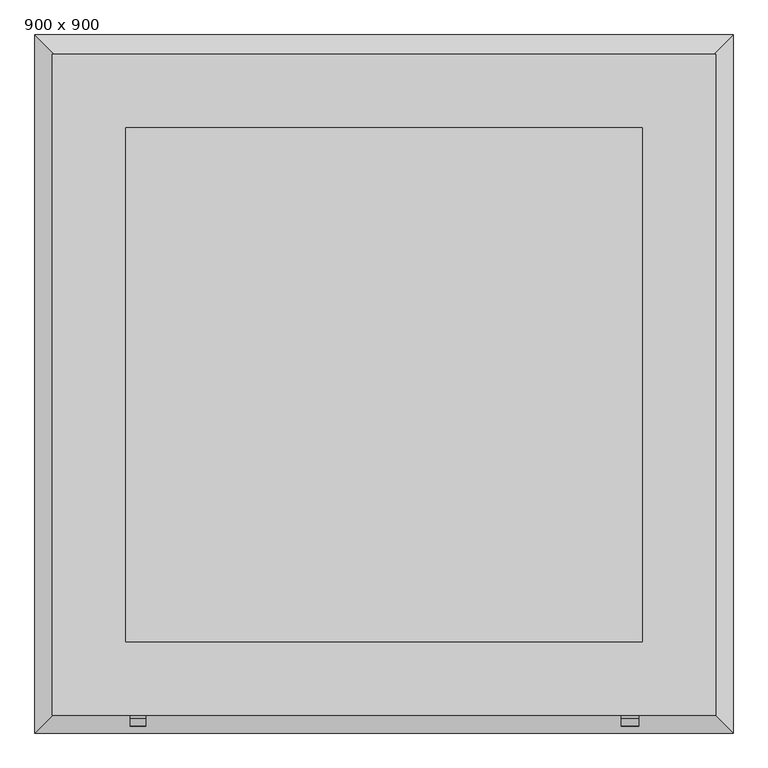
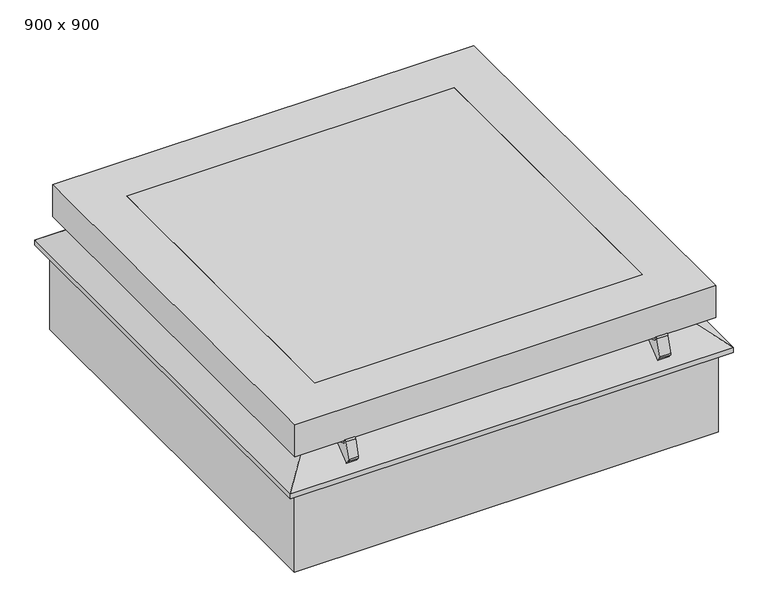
"""IFC4 building model written with IfcOpenShell, lengths in millimetres: proxy geometry, 2_Topaccess_dakluik_900x900_Staka : 900 x 900."""

from ifc_helpers import new_model, si_unit, point, frame, frame_2d, origin, place, context, project, spatial, polyline, circle_curve, trimmed, segment, composite_curve, outline, extrude, faceted_brep, source, transform, mapped, element, save


def proxy_900_x_900_452053f7(model_context):
    return source(origin(), model_context, "Body", "SolidModel", [
        extrude(outline(composite_curve([segment(trimmed(circle_curve(frame_2d((-359.3648131, 286.8367213)), 7.5311041), [point((-365.2456174, 282.1320778))], [point((-366.7901944, 288.0941957))], False, "CARTESIAN"), True, "CONTINUOUS"), segment(polyline([(-366.7901944, 288.0941957), (-353.3118588, 332.1798449)]), True, "CONTINUOUS"), segment(trimmed(circle_curve(frame_2d((-349.4849442, 331.0098397)), 4.0017731), [point((-353.3118588, 332.1798449))], [point((-347.076617, 327.8138816))], False, "CARTESIAN"), True, "CONTINUOUS"), segment(trimmed(circle_curve(frame_2d((-344.5716793, 325.8942569)), 3.1558949), [point((-347.076617, 327.8138816))], [point((-344.7636324, 322.7442051))], True, "CARTESIAN"), True, "CONTINUOUS"), segment(polyline([(-344.7636324, 322.7442051), (-309.4270274, 309.7007017), (-356.9108622, 271.7136338), (-365.2456174, 282.1320778)]), True, "CONTINUOUS")], self_intersect=False)), frame((-1025.8118006, 0.0, 0.0), z_axis=(1.0, 0.0, 0.0), x_axis=(0.0, 1.0, 0.0)), (0.0, 0.0, 1.0), 26.9967765),
        extrude(outline(composite_curve([segment(trimmed(circle_curve(frame_2d((-359.3648131, 286.8367213)), 7.5311041), [point((-365.2456174, 282.1320778))], [point((-366.7901944, 288.0941957))], False, "CARTESIAN"), True, "CONTINUOUS"), segment(polyline([(-366.7901944, 288.0941957), (-353.3118588, 332.1798449)]), True, "CONTINUOUS"), segment(trimmed(circle_curve(frame_2d((-349.4849442, 331.0098397)), 4.0017731), [point((-353.3118588, 332.1798449))], [point((-347.076617, 327.8138816))], False, "CARTESIAN"), True, "CONTINUOUS"), segment(trimmed(circle_curve(frame_2d((-344.5716793, 325.8942569)), 3.1558949), [point((-347.076617, 327.8138816))], [point((-344.7636324, 322.7442051))], True, "CARTESIAN"), True, "CONTINUOUS"), segment(polyline([(-344.7636324, 322.7442051), (-309.4270274, 309.7007017), (-356.9108622, 271.7136338), (-365.2456174, 282.1320778)]), True, "CONTINUOUS")], self_intersect=False)), frame((-165.3386759, 0.0, 0.0), z_axis=(1.0, 0.0, 0.0), x_axis=(0.0, 1.0, 0.0)), (0.0, 0.0, 1.0), 30.3797811),
        faceted_brep([(-61.2697623, 753.4470955, 328.0), (30.7302377, 845.4470955, 254.4), (-1193.2697623, 845.4470955, 254.4), (-1101.2697623, 753.4470955, 328.0), (-105.2697623, 709.4470955, 282.0), (-85.7439208, 728.9729371, 328.0), (-1076.7956039, 728.9729371, 328.0), (-1057.2697623, 709.4470955, 282.0), (-131.2697623, 683.4470955, 0.0), (-131.2697623, 683.4470955, 282.0), (-1031.2697623, 683.4470955, 282.0), (-1031.2697623, 683.4470955, 0.0), (4.7302377, 819.4470955, 240.0), (4.7302377, 819.4470955, 0.0), (-1167.2697623, 819.4470955, 0.0), (-1167.2697623, 819.4470955, 240.0), (30.7302377, 845.4470955, 240.0), (-1193.2697623, 845.4470955, 240.0), (-1193.2697623, -378.5529045, 254.4), (-1101.2697623, -286.5529045, 328.0), (-1076.7956039, -262.078746, 328.0), (-1057.2697623, -242.5529045, 282.0), (-1031.2697623, -216.5529045, 282.0), (-1031.2697623, -216.5529045, 0.0), (-1167.2697623, -352.5529045, 0.0), (-1167.2697623, -352.5529045, 240.0), (-1193.2697623, -378.5529045, 240.0), (30.7302377, -378.5529045, 254.4), (-61.2697623, -286.5529045, 328.0), (-85.7439208, -262.078746, 328.0), (-105.2697623, -242.5529045, 282.0), (-131.2697623, -216.5529045, 282.0), (-131.2697623, -216.5529045, 0.0), (4.7302377, -352.5529045, 0.0), (4.7302377, -352.5529045, 240.0), (30.7302377, -378.5529045, 240.0)], [[[0, 1, 2, 3]], [[4, 5, 6, 7]], [[8, 9, 10, 11]], [[12, 13, 14, 15]], [[1, 16, 17, 2]], [[3, 2, 18, 19]], [[7, 6, 20, 21]], [[11, 10, 22, 23]], [[15, 14, 24, 25]], [[2, 17, 26, 18]], [[19, 18, 27, 28]], [[21, 20, 29, 30]], [[23, 22, 31, 32]], [[25, 24, 33, 34]], [[18, 26, 35, 27]], [[28, 27, 1, 0]], [[3, 19, 28, 0], [5, 29, 20, 6]], [[30, 29, 5, 4]], [[7, 21, 30, 4], [9, 31, 22, 10]], [[32, 31, 9, 8]], [[13, 33, 24, 14], [11, 23, 32, 8]], [[34, 33, 13, 12]], [[16, 35, 26, 17], [15, 25, 34, 12]], [[27, 35, 16, 1]]]),
        extrude(outline(polyline([(-1033.9725908, 682.5846734), (-128.2725908, 682.5846734), (-128.2725908, -218.4153266), (-1033.9725908, -218.4153266), (-1033.9725908, 682.5846734)])), frame((0.0, 0.0, 287.0), z_axis=(0.0, 0.0, 1.0), x_axis=(1.0, 0.0, 0.0)), (0.0, 0.0, 1.0), 139.4),
        faceted_brep([(-128.2725908, 682.5846734, 287.0), (-128.2725908, 682.5846734, 426.4), (-1033.9725908, 682.5846734, 426.4), (-1033.9725908, 682.5846734, 287.0), (-85.2725908, 725.5846734, 333.4), (-102.8725908, 707.9846734, 287.0), (-1059.3725908, 707.9846734, 287.0), (-1076.9725908, 725.5846734, 333.4), (0.7274092, 811.5846734, 426.4), (0.7274092, 811.5846734, 333.4), (-1162.9725908, 811.5846734, 333.4), (-1162.9725908, 811.5846734, 426.4), (-1033.9725908, -218.4153266, 426.4), (-1033.9725908, -218.4153266, 287.0), (-1059.3725908, -243.8153266, 287.0), (-1076.9725908, -261.4153266, 333.4), (-1162.9725908, -347.4153266, 333.4), (-1162.9725908, -347.4153266, 426.4), (-128.2725908, -218.4153266, 426.4), (-128.2725908, -218.4153266, 287.0), (-102.8725908, -243.8153266, 287.0), (-85.2725908, -261.4153266, 333.4), (0.7274092, -347.4153266, 333.4), (0.7274092, -347.4153266, 426.4)], [[[0, 1, 2, 3]], [[4, 5, 6, 7]], [[8, 9, 10, 11]], [[3, 2, 12, 13]], [[7, 6, 14, 15]], [[11, 10, 16, 17]], [[13, 12, 18, 19]], [[15, 14, 20, 21]], [[17, 16, 22, 23]], [[19, 18, 1, 0]], [[5, 20, 14, 6], [3, 13, 19, 0]], [[21, 20, 5, 4]], [[9, 22, 16, 10], [7, 15, 21, 4]], [[23, 22, 9, 8]], [[11, 17, 23, 8], [1, 18, 12, 2]]]),
    ])


if __name__ == "__main__":
    model = new_model("IFC4")
    model_context = context("Model", 3, world=origin())
    ifc_project = project(units=[si_unit("LENGTHUNIT", "METRE", prefix="MILLI")], contexts=[model_context])
    site = spatial("IfcSite", under=ifc_project)
    building = spatial("IfcBuilding", under=site)
    placement = place(None, origin())
    proxy_900_x_900_shape = proxy_900_x_900_452053f7(model_context)
    element("IfcBuildingElementProxy", 1, Name="2_Topaccess_dakluik_900x900_Staka : 900 x 900", ObjectType="2_Topaccess_dakluik_900x900_Staka : 900 x 900", at=placement, inside=building, context=model_context, shape_type="MappedRepresentation", body=[
        mapped(proxy_900_x_900_shape, transform((0.0, 0.0, 0.0), x_axis=(1.0, 0.0, 0.0), y_axis=(0.0, 1.0, 0.0), z_axis=(0.0, 0.0, 1.0))),
    ])
    save(model, "model.ifc")
